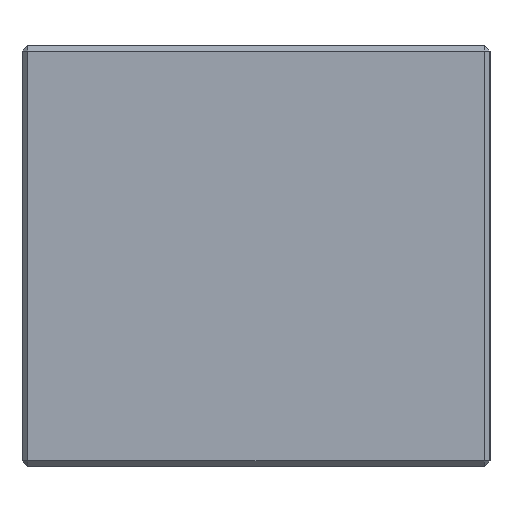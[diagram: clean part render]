
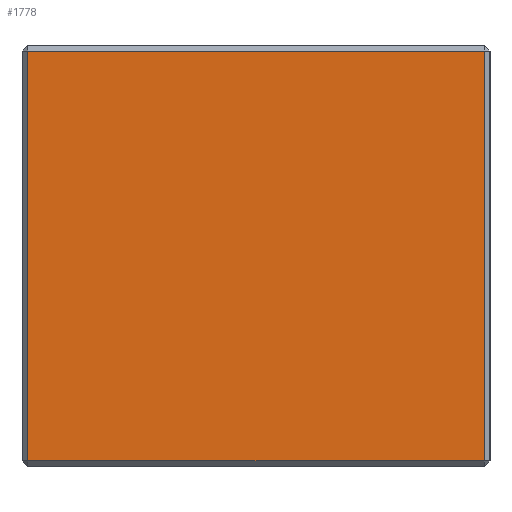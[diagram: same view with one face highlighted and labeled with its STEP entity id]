
A CAD part, left-side view. The second image highlights one B-rep face of the part: STEP entity #1778.
In plain terms, the highlighted planar face has unit normal (-1, 0, 0).
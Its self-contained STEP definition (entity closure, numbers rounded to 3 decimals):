
#29 = CARTESIAN_POINT ( 'NONE',  ( -28., 12.2, -23.5 ) ) ;
#75 = LINE ( 'NONE', #1382, #294 ) ;
#77 = LINE ( 'NONE', #357, #1013 ) ;
#175 = ORIENTED_EDGE ( 'NONE', *, *, #922, .T. ) ;
#205 = EDGE_CURVE ( 'NONE', #700, #1417, #1082, .T. ) ;
#294 = VECTOR ( 'NONE', #413, 1000. ) ;
#311 = CARTESIAN_POINT ( 'NONE',  ( -28., 12.2, -23.2 ) ) ;
#342 = ORIENTED_EDGE ( 'NONE', *, *, #205, .T. ) ;
#354 = EDGE_CURVE ( 'NONE', #865, #614, #77, .T. ) ;
#357 = CARTESIAN_POINT ( 'NONE',  ( -28., 12.5, -1.3 ) ) ;
#360 = AXIS2_PLACEMENT_3D ( 'NONE', #384, #794, #551 ) ;
#384 = CARTESIAN_POINT ( 'NONE',  ( -28., 12.5, -27.5 ) ) ;
#413 = DIRECTION ( 'NONE',  ( 0., 0., 1. ) ) ;
#449 = DIRECTION ( 'NONE',  ( 0., 0., -1. ) ) ;
#526 = DIRECTION ( 'NONE',  ( 0., 1., 0. ) ) ;
#551 = DIRECTION ( 'NONE',  ( 0., 0., -1. ) ) ;
#575 = CARTESIAN_POINT ( 'NONE',  ( -28., 12.2, -1.3 ) ) ;
#614 = VERTEX_POINT ( 'NONE', #575 ) ;
#667 = CARTESIAN_POINT ( 'NONE',  ( -28., -12.2, -23.2 ) ) ;
#700 = VERTEX_POINT ( 'NONE', #311 ) ;
#794 = DIRECTION ( 'NONE',  ( 1., 0., 0. ) ) ;
#804 = FACE_OUTER_BOUND ( 'NONE', #1753, .T. ) ;
#865 = VERTEX_POINT ( 'NONE', #902 ) ;
#902 = CARTESIAN_POINT ( 'NONE',  ( -28., -12.2, -1.3 ) ) ;
#922 = EDGE_CURVE ( 'NONE', #1417, #865, #75, .T. ) ;
#977 = PLANE ( 'NONE',  #360 ) ;
#1013 = VECTOR ( 'NONE', #526, 1000. ) ;
#1082 = LINE ( 'NONE', #1643, #1106 ) ;
#1106 = VECTOR ( 'NONE', #1634, 1000. ) ;
#1118 = EDGE_CURVE ( 'NONE', #614, #700, #1143, .T. ) ;
#1143 = LINE ( 'NONE', #29, #1635 ) ;
#1382 = CARTESIAN_POINT ( 'NONE',  ( -28., -12.2, -27.5 ) ) ;
#1417 = VERTEX_POINT ( 'NONE', #667 ) ;
#1425 = ORIENTED_EDGE ( 'NONE', *, *, #354, .T. ) ;
#1566 = ORIENTED_EDGE ( 'NONE', *, *, #1118, .T. ) ;
#1634 = DIRECTION ( 'NONE',  ( 0., -1., 0. ) ) ;
#1635 = VECTOR ( 'NONE', #449, 1000. ) ;
#1643 = CARTESIAN_POINT ( 'NONE',  ( -28., -12.5, -23.2 ) ) ;
#1753 = EDGE_LOOP ( 'NONE', ( #175, #1425, #1566, #342 ) ) ;
#1778 = ADVANCED_FACE ( 'NONE', ( #804 ), #977, .F. ) ;
